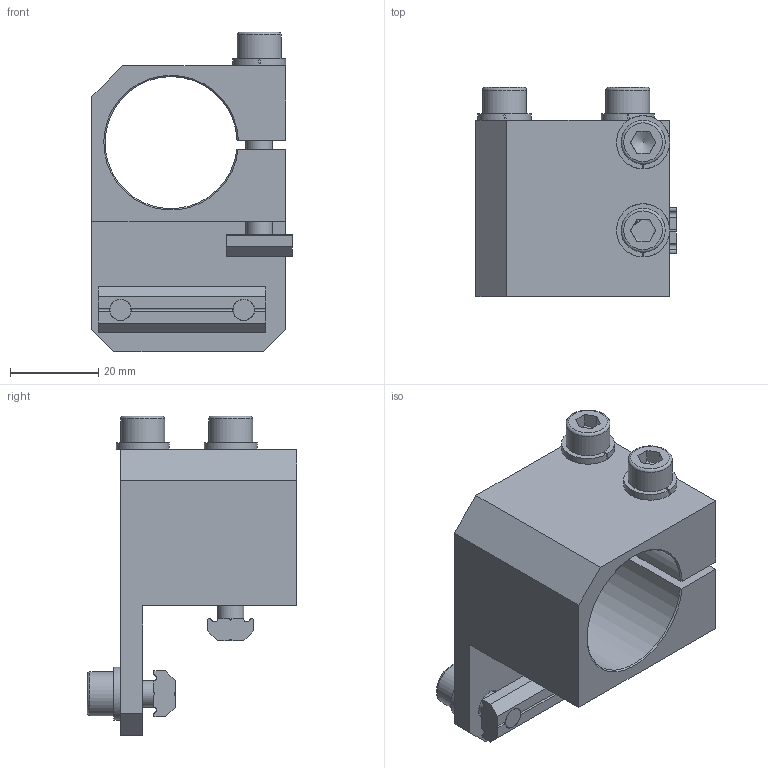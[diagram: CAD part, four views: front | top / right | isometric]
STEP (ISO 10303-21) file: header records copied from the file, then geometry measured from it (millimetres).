
FILE_DESCRIPTION(/* description */ ('Element Cross Clamp Heavy Duty'),/* implementation_level */ '2;1');
FILE_NAME(/* name */ 'ECC-30-HD.STEP',/* time_stamp */ '2026-02-10T14:36:10-05:00',/* author */ ('Design2'),/* organization */ ('CCS Design LLC'),/* preprocessor_version */ 'ST-DEVELOPER v20',/* originating_system */ 'Autodesk Inventor 2025',/* authorisation */ '');
FILE_SCHEMA (('AUTOMOTIVE_DESIGN { 1 0 10303 214 3 1 1 }'));
Length unit declared in the file: inch
Products named in the file (8): ECCH-30; M-ECCH-30; ANSI B18.3.1M - M6x1 x 35; CN-6; ASME B18.21.2M - 6; ANSI B18.3.1M - M6x1 x 14; ANSI B18.3.1M - M6x1 x 45; CN-6-28
Assembly tree (11 placements, depth 2):
  ECCH-30
    M-ECCH-30
    ANSI B18.3.1M - M6x1 x 14  x2
    ANSI B18.3.1M - M6x1 x 35
    ASME B18.21.2M - 6  x4
    CN-6
    ANSI B18.3.1M - M6x1 x 45
    CN-6-28
Bounding box: 45.5 x 47.57 x 72.57 mm (x, y, z)
Volume: 43527.8 mm3; surface area: 22739.4 mm2
Topology: 11 solids, 11 shells, 155 faces, 407 edges, 270 vertices
Faces by surface type: plane 86, cylinder 44, cone 17, torus 8
Full cylindrical faces by diameter (mm): 4.928 x4, 6 x4, 6.604 x5, 10 x4
Entity records: 4411 total; most frequent: CARTESIAN_POINT 948, DIRECTION 689, ORIENTED_EDGE 662, EDGE_CURVE 331, AXIS2_PLACEMENT_3D 254, VERTEX_POINT 222, LINE 181, VECTOR 181
